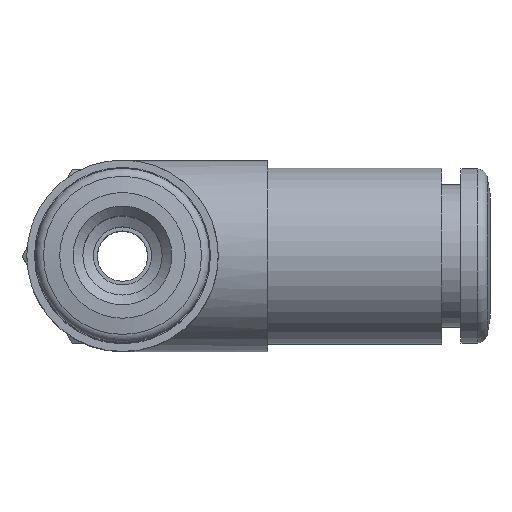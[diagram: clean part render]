
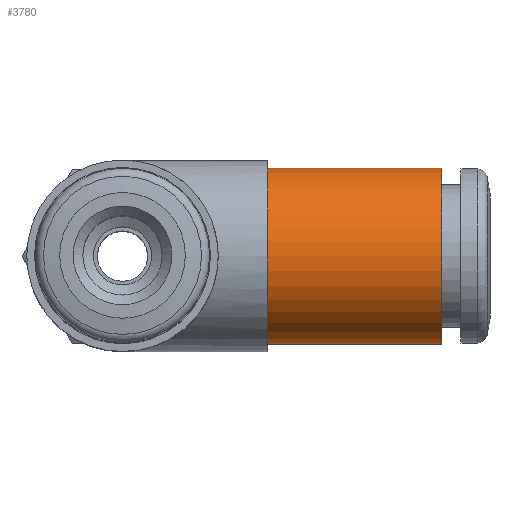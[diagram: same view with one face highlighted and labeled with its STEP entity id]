
A CAD part, top view. The second image highlights one B-rep face of the part: STEP entity #3780.
In plain terms, the highlighted cylindrical face has radius 4.55 mm (diameter 9.1 mm), a full revolution.
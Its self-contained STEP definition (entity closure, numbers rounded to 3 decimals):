
#3780=ADVANCED_FACE('', (#3790,#3800), #3810, .T.);
#10450=AXIS2_PLACEMENT_3D('Ax2Pl3d', #10460, #10470, #10480);
#11850=AXIS2_PLACEMENT_3D('Ax2Pl3d', #11860, #11870, #11880);
#11890=AXIS2_PLACEMENT_3D('Ax2Pl3d', #11900, #11910, #11920);
#10460=CARTESIAN_POINT('HicPkt', (26.513,9.644,
11.32));
#20250=CARTESIAN_POINT('', (26.513,9.644,15.87));
#11860=CARTESIAN_POINT('HicPkt', (17.513,9.644,
11.32));
#11900=CARTESIAN_POINT('HicPkt', (17.513,9.644,
11.32));
#20440=CARTESIAN_POINT('', (17.513,9.644,15.87));
#21190=CIRCLE('Circle', #10450, 4.55);
#21360=CIRCLE('Circle', #11890, 4.55);
#3810=CYLINDRICAL_SURFACE('Zyl', #11850, 4.55);
#10470=DIRECTION('Axis', (-1.,0.,0.)
);
#10480=DIRECTION('RefDirection', (0.,
0.,-1.));
#11870=DIRECTION('Axis', (1.,0.,0.));
#11880=DIRECTION('RefDirection', (0.,0.,-1.));
#11910=DIRECTION('Axis', (-1.,0.,0.)
);
#11920=DIRECTION('RefDirection', (0.,
0.,-1.));
#26710=EDGE_CURVE('', #26720, #26720, #21190, .T.);
#27110=EDGE_CURVE('', #27120, #27120, #21360, .T.);
#31050=EDGE_LOOP('Edge_loop', (#31060));
#31070=EDGE_LOOP('Edge_loop', (#31080));
#3800=FACE_BOUND('', #31070, .T.);
#3790=FACE_OUTER_BOUND('Face_outer_bound', #31050, .T.);
#31060=ORIENTED_EDGE('', *, *, #26710, .T.);
#31080=ORIENTED_EDGE('', *, *, #27110, .F.);
#26720=VERTEX_POINT('', #20250);
#27120=VERTEX_POINT('', #20440);
